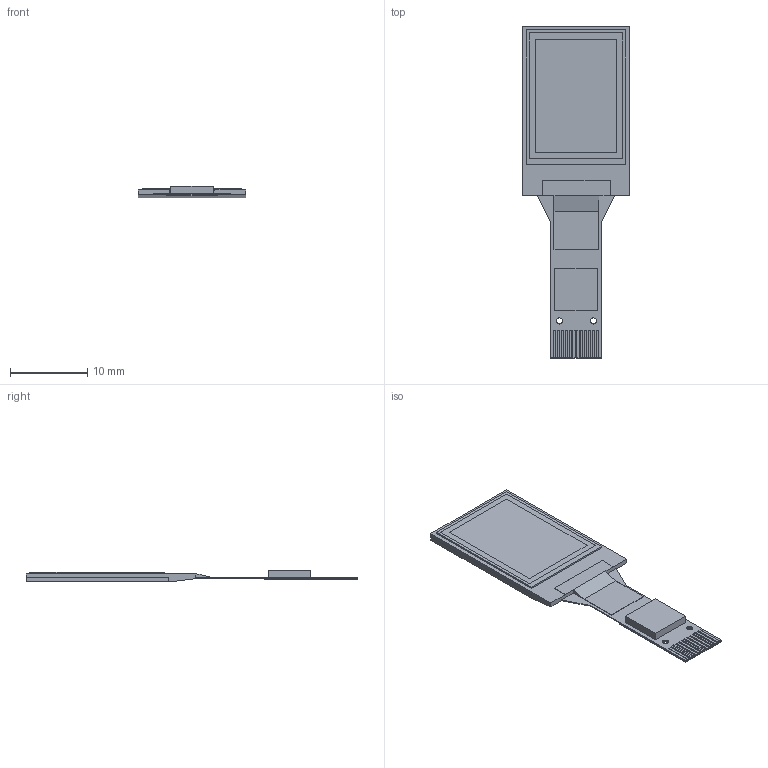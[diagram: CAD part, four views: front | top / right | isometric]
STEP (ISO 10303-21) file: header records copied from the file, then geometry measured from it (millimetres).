
FILE_DESCRIPTION (( 'STEP AP214' ), '1' );
FILE_NAME ('CFAL4864A-071B.STEP', '2020-08-03T19:36:23', ( '' ), ( '' ), 'SwSTEP 2.0', 'SolidWorks 2020', '' );
FILE_SCHEMA (( 'AUTOMOTIVE_DESIGN' ));
Length unit declared in the file: millimetre
Products named in the file (1): CFAL4864A-071B
Bounding box: 13.9 x 42.99 x 1.55 mm (x, y, z)
Volume: 423 mm3; surface area: 2233 mm2
Topology: 17 solids, 17 shells, 131 faces, 289 edges, 194 vertices
Faces by surface type: plane 123, cylinder 8
Entity records: 4977 total; most frequent: CARTESIAN_POINT 615, ORIENTED_EDGE 578, DIRECTION 569, EDGE_CURVE 289, LINE 273, VECTOR 273, VERTEX_POINT 194, AXIS2_PLACEMENT_3D 148
